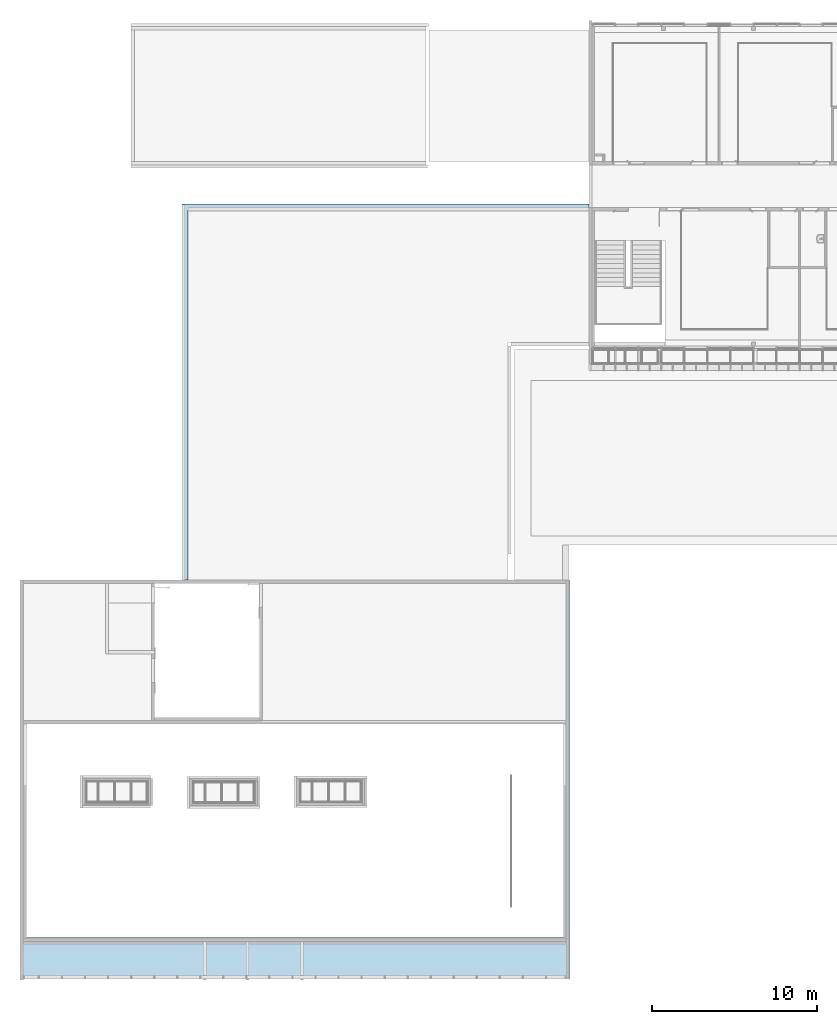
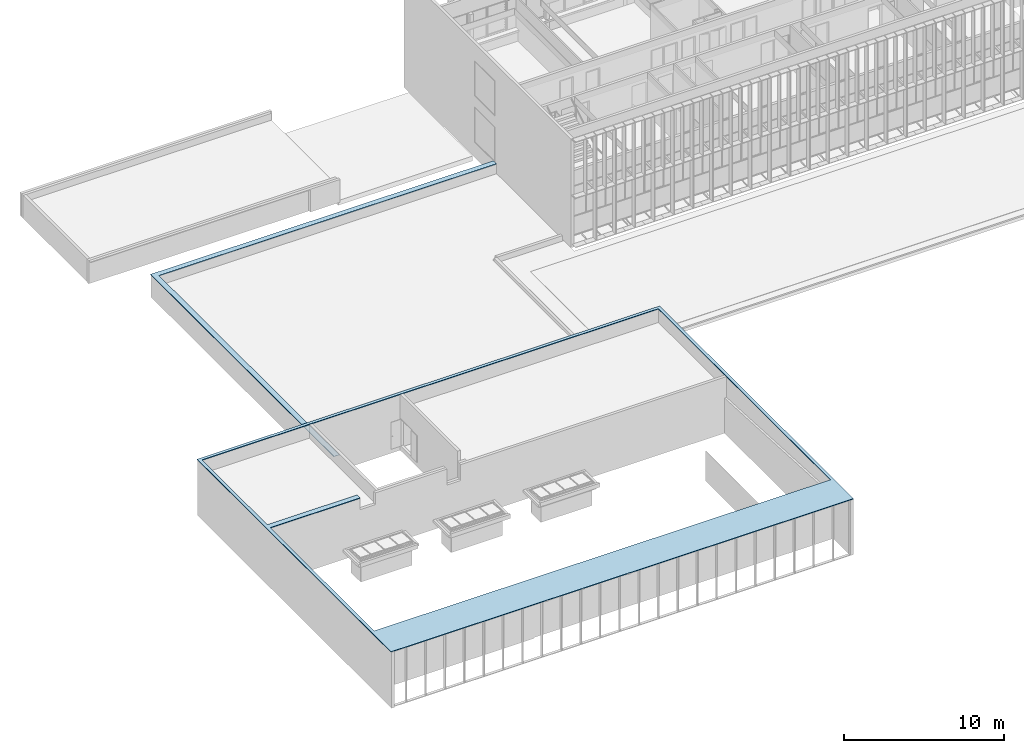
# One storey, part 101 of 106: 1 roof.
"""IFC2X3 building model written with IfcOpenShell, lengths in centimetres."""

import ifcopenshell
import ifcopenshell.guid

model = None  # the IFC model being written
_history = None  # IfcOwnerHistory: only IFC2X3 demands one
_inside = {}  # id of a spatial element -> (the spatial element, [elements in it])
_under = {}  # id of a project, library or spatial element -> (it, [spatial elements below it])
_declared = {}  # id of a project -> (the project, [libraries it declares])
_typed = {}  # id of a type object -> (the type object, [elements of that type])
_made_of = {}  # id of a material, layer set ... -> (it, [elements and type objects made of it])


def new_model(schema):
    """Start an empty IFC model of exactly this schema.

    Asked for "IFC4X3", IfcOpenShell would pick the latest addendum, in which some entities
    have other attributes; the version numbers below select the first issue.
    IFC2X3 requires an IfcOwnerHistory on every rooted entity: one is made here for all.
    """
    global model, _history
    if schema == "IFC4X3":
        model = ifcopenshell.file(schema_version=(4, 3, 0, 0))
    else:
        model = ifcopenshell.file(schema=schema)
    _inside.clear()
    _under.clear()
    _declared.clear()
    _typed.clear()
    _made_of.clear()
    _history = None
    if model.schema == "IFC2X3":
        org = make("IfcOrganization", Name="unknown")
        user = make(
            "IfcPersonAndOrganization",
            ThePerson=make("IfcPerson", FamilyName="unknown"),
            TheOrganization=org,
        )
        app = make(
            "IfcApplication",
            ApplicationDeveloper=org,
            Version="unknown",
            ApplicationFullName="unknown",
            ApplicationIdentifier="unknown",
        )
        _history = make(
            "IfcOwnerHistory",
            OwningUser=user,
            OwningApplication=app,
            ChangeAction="ADDED",
            CreationDate=0,
        )
    return model


def make(cls, **values):
    """One entity of the class cls with the attributes given. An attribute that is None is left unset."""
    return model.create_entity(
        cls, **{name: value for name, value in values.items() if value is not None}
    )


def entity(cls, *values):
    """Any entity or typed value of the class cls, its attributes in the order of the schema. None: left unset."""
    e = model.create_entity(cls)
    for i, value in enumerate(values):
        if value is not None:
            e[i] = value
    return e


def rooted(cls, **values):
    """An entity with a GlobalId (a new one), such as an element, a storey or a relation."""
    return make(cls, GlobalId=ifcopenshell.guid.new(), OwnerHistory=_history, **values)


def si_unit(unit_type, name, prefix=None):
    """IfcSIUnit, for example si_unit("LENGTHUNIT", "METRE", prefix="MILLI")."""
    return make("IfcSIUnit", UnitType=unit_type, Prefix=prefix, Name=name)


def converted_unit(unit_type, name, factor, base, dimensions=None, offset=None):
    """IfcConversionBasedUnit, such as the inch: factor (a typed value) times the base unit."""
    return make(
        "IfcConversionBasedUnit"
        if offset is None
        else "IfcConversionBasedUnitWithOffset",
        ConversionOffset=offset,
        Dimensions=None
        if dimensions is None
        else entity("IfcDimensionalExponents", *dimensions),
        UnitType=unit_type,
        Name=name,
        ConversionFactor=make(
            "IfcMeasureWithUnit", ValueComponent=factor, UnitComponent=base
        ),
    )


def derived_unit(unit_type, elements):
    """IfcDerivedUnit: a product of units, each with its exponent."""
    return make(
        "IfcDerivedUnit",
        Elements=[
            make("IfcDerivedUnitElement", Unit=unit, Exponent=power)
            for unit, power in elements
        ],
        UnitType=unit_type,
    )


def assignment(units):
    """IfcUnitAssignment: the units of a project."""
    return None if units is None else make("IfcUnitAssignment", Units=units)


def point(xyz):
    """IfcCartesianPoint."""
    return None if xyz is None else make("IfcCartesianPoint", Coordinates=xyz)


def direction(xyz):
    """IfcDirection."""
    return None if xyz is None else make("IfcDirection", DirectionRatios=xyz)


def frame(location, z_axis=None, x_axis=None):
    """IfcAxis2Placement3D, a coordinate frame: its origin and axes. An axis left out is left unset."""
    return make(
        "IfcAxis2Placement3D",
        Location=point(location),
        Axis=direction(z_axis),
        RefDirection=direction(x_axis),
    )


def origin():
    """The frame at (0, 0, 0) with its axes left unset."""
    return frame((0.0, 0.0, 0.0))


def place(relative_to, where):
    """IfcLocalPlacement: puts the frame where relative to a parent placement (None: the world)."""
    return make(
        "IfcLocalPlacement", PlacementRelTo=relative_to, RelativePlacement=where
    )


def context(
    kind, dimensions, precision=None, world=None, true_north=None, identifier=None
):
    """IfcGeometricRepresentationContext, for example the 3D "Model" context."""
    return make(
        "IfcGeometricRepresentationContext",
        ContextIdentifier=identifier,
        ContextType=kind,
        CoordinateSpaceDimension=dimensions,
        Precision=precision,
        WorldCoordinateSystem=world,
        TrueNorth=true_north,
    )


def subcontext(parent, identifier, kind, view, scale=None):
    """IfcGeometricRepresentationSubContext, for example "Body" below "Model"."""
    return make(
        "IfcGeometricRepresentationSubContext",
        ContextIdentifier=identifier,
        ContextType=kind,
        ParentContext=parent,
        TargetScale=scale,
        TargetView=view,
    )


def project(units=None, contexts=None):
    """IfcProject with its units and contexts."""
    return rooted(
        "IfcProject",
        Name="project",
        RepresentationContexts=contexts,
        UnitsInContext=assignment(units),
    )


def spatial(cls, under=None, at=None, **own):
    """A site, building, storey or space (cls), placed at a placement, below another one or the project."""
    s = rooted(cls, ObjectPlacement=at, **own)
    if under is not None:
        _under.setdefault(under.id(), (under, []))[1].append(s)
    return s


def faces_of(points, faces, orient=None, outer=None):
    """IfcFace entities. A face is a list of loops; a loop is a list of indices into points, from 0.

    orient and outer hold one flag for each loop. By default every Orientation is true, the
    first loop of a face is its IfcFaceOuterBound and the others are IfcFaceBound.
    """
    made = []
    for i, loops in enumerate(faces):
        bounds = []
        for j, loop in enumerate(loops):
            is_outer = j == 0 if outer is None else outer[i][j]
            bounds.append(
                make(
                    "IfcFaceOuterBound" if is_outer else "IfcFaceBound",
                    Bound=make("IfcPolyLoop", Polygon=[points[k] for k in loop]),
                    Orientation=True if orient is None else orient[i][j],
                )
            )
        made.append(make("IfcFace", Bounds=bounds))
    return made


def faceted_brep(points, faces, orient=None, outer=None, voids=None):
    """IfcFacetedBrep: a solid bounded by flat faces; with voids (closed shells), ...WithVoids."""
    shared = [point(p) for p in points]
    hull = make("IfcClosedShell", CfsFaces=faces_of(shared, faces, orient, outer))
    if voids is None:
        return make("IfcFacetedBrep", Outer=hull)
    return make(
        "IfcFacetedBrepWithVoids",
        Outer=hull,
        Voids=[
            make(cls, CfsFaces=faces_of(shared, fs, o, b)) for cls, fs, o, b in voids
        ],
    )


def shape(context_of_items, identifier, shape_type, items):
    """IfcShapeRepresentation: the items that make up one representation, for example the "Body"."""
    return make(
        "IfcShapeRepresentation",
        ContextOfItems=context_of_items,
        RepresentationIdentifier=identifier,
        RepresentationType=shape_type,
        Items=items,
    )


def material(Name=None, Category=None):
    """IfcMaterial."""
    return make("IfcMaterial", Name=Name, Category=Category)


def made_of(thing, what):
    """Note that an element or type object is made of a material, layer set ...; save() writes the relation."""
    if what is not None:
        _made_of.setdefault(what.id(), (what, []))[1].append(thing)
    return thing


def element(
    cls,
    number,
    at=None,
    inside=None,
    cuts=None,
    type_object=None,
    material=None,
    context=None,
    identifier="Body",
    shape_type=None,
    held_by="IfcProductDefinitionShape",
    body=None,
    shapes=None,
    **own,
):
    """One element of the class cls, such as IfcWall. Its Tag is "e" and its number.

    at: its placement. inside: the storey or other place that contains it. cuts: it is an
    opening in that element (IfcRelVoidsElement). A single representation is given by context,
    identifier, shape_type and body (its items); several are given by shapes. held_by: the class
    of the entity that holds the representations. save() writes the other relations.
    """
    e = rooted(cls, Tag="e%d" % number, ObjectPlacement=at, **own)
    if body is not None:
        shapes = [shape(context, identifier, shape_type, body)]
    if shapes is not None:
        e.Representation = make(held_by, Representations=shapes)
    if inside is not None:
        _inside.setdefault(inside.id(), (inside, []))[1].append(e)
    if cuts is not None:
        rooted(
            "IfcRelVoidsElement", RelatingBuildingElement=cuts, RelatedOpeningElement=e
        )
    if type_object is not None:
        _typed.setdefault(type_object.id(), (type_object, []))[1].append(e)
    return made_of(e, material)


def aggregate(whole, parts):
    """IfcRelAggregates: a whole, such as a stair, and the parts it consists of."""
    return rooted("IfcRelAggregates", RelatingObject=whole, RelatedObjects=parts)


def save(model, path):
    """Write the relations noted so far, then the file.

    IfcRelAggregates (storeys below a building ...), IfcRelContainedInSpatialStructure (elements
    in a storey), IfcRelDefinesByType, IfcRelAssociatesMaterial and IfcRelDeclares: one each for
    every whole, place, type object, material and project.
    """
    for whole, parts in _under.values():
        aggregate(whole, parts)
    for where, things in _inside.values():
        rooted(
            "IfcRelContainedInSpatialStructure",
            RelatedElements=things,
            RelatingStructure=where,
        )
    for kind, things in _typed.values():
        rooted("IfcRelDefinesByType", RelatedObjects=things, RelatingType=kind)
    for what, things in _made_of.values():
        rooted("IfcRelAssociatesMaterial", RelatedObjects=things, RelatingMaterial=what)
    for by, libraries in _declared.values():
        rooted("IfcRelDeclares", RelatingContext=by, RelatedDefinitions=libraries)
    model.write(path)


model = new_model("IFC2X3")

# Units and contexts
model_context = context("Model", 3, precision=0.001, world=origin(), true_north=direction((6.12303176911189e-17, 1.0)))
body_context = subcontext(model_context, "Body", "Model", "MODEL_VIEW")
ifc_project = project(units=[si_unit("LENGTHUNIT", "METRE", prefix="CENTI"), si_unit("AREAUNIT", "SQUARE_METRE"), si_unit("VOLUMEUNIT", "CUBIC_METRE"), converted_unit("PLANEANGLEUNIT", "DEGREE", entity("IfcRatioMeasure", 0.0174532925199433), si_unit("PLANEANGLEUNIT", "RADIAN"), dimensions=[0, 0, 0, 0, 0, 0, 0]), si_unit("MASSUNIT", "GRAM", prefix="KILO"), derived_unit("MASSDENSITYUNIT", [(si_unit("MASSUNIT", "GRAM", prefix="KILO"), 1), (si_unit("LENGTHUNIT", "METRE"), -3)]), si_unit("TIMEUNIT", "SECOND"), si_unit("FREQUENCYUNIT", "HERTZ"), si_unit("THERMODYNAMICTEMPERATUREUNIT", "DEGREE_CELSIUS"), derived_unit("THERMALTRANSMITTANCEUNIT", [(si_unit("MASSUNIT", "GRAM", prefix="KILO"), 1), (si_unit("THERMODYNAMICTEMPERATUREUNIT", "KELVIN"), -1), (si_unit("TIMEUNIT", "SECOND"), -3)]), derived_unit("VOLUMETRICFLOWRATEUNIT", [(si_unit("LENGTHUNIT", "METRE"), 3), (si_unit("TIMEUNIT", "SECOND"), -1)]), si_unit("ELECTRICCURRENTUNIT", "AMPERE"), si_unit("ELECTRICVOLTAGEUNIT", "VOLT"), si_unit("POWERUNIT", "WATT"), si_unit("FORCEUNIT", "NEWTON", prefix="KILO"), si_unit("ILLUMINANCEUNIT", "LUX"), si_unit("LUMINOUSFLUXUNIT", "LUMEN"), si_unit("LUMINOUSINTENSITYUNIT", "CANDELA"), derived_unit("USERDEFINED", [(si_unit("MASSUNIT", "GRAM", prefix="KILO"), -1), (si_unit("LENGTHUNIT", "METRE"), -2), (si_unit("TIMEUNIT", "SECOND"), 3), (si_unit("LUMINOUSFLUXUNIT", "LUMEN"), 1)]), derived_unit("LINEARVELOCITYUNIT", [(si_unit("LENGTHUNIT", "METRE"), 1), (si_unit("TIMEUNIT", "SECOND"), -1)]), si_unit("PRESSUREUNIT", "PASCAL"), derived_unit("USERDEFINED", [(si_unit("LENGTHUNIT", "METRE"), -2), (si_unit("MASSUNIT", "GRAM", prefix="KILO"), 1), (si_unit("TIMEUNIT", "SECOND"), -2)])], contexts=[model_context])

# Site, building, storey
site_placement = place(None, frame((-2781.94577612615, 7442.24238424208, 0.0)))
site = spatial("IfcSite", under=ifc_project, at=site_placement, Name="Default", CompositionType="ELEMENT")
building_placement = place(site_placement, origin())
building = spatial("IfcBuilding", under=site, at=building_placement, CompositionType="ELEMENT")
storey_placement = place(building_placement, frame((0.0, 0.0, 422.0)))
storey = spatial("IfcBuildingStorey", under=building, at=storey_placement, Name="Toiture - Cuisine", CompositionType="ELEMENT", Elevation=421.999999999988)

# Roof
ifc_material = material(Name="Aluminium")
roof_placement = place(storey_placement, frame((-11885.3505746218, -5775.00173441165, -5.0)))
element("IfcRoof", 1, at=roof_placement, inside=storey, material=ifc_material, Name="Couvertine Self:Couvertine Self", ObjectType="Couvertine Self:Couvertine Self", ShapeType="NOTDEFINED", context=body_context, shape_type="Brep", body=[
    faceted_brep([(1.0, 250.499999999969, 319.0), (1.0, 250.0, 319.0), (1.0, 250.0, 323.5), (1.0, 250.499999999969, 323.5), (3336.36319372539, 250.0, 323.5), (3336.36319372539, 250.0, 319.0), (3336.36319372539, 250.499999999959, 319.0), (3336.36319372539, 250.499999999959, 323.500000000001), (3336.8631937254, 2422.4799278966, 323.500000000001), (3336.86319372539, 1.01596932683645, 323.500000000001), (3336.36319372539, 1.01596932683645, 323.500000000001), (3336.36319372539, 0.499999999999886, 323.500000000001), (23.0, 0.500000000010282, 323.500000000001), (23.0, 250.0, 323.5), (3315.36319372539, 250.0, 323.5), (3315.36319372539, 1.01596932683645, 323.500000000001), (3315.86319372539, 1.01596932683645, 323.500000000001), (3315.86319372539, 250.0, 323.5), (3315.86319372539, 250.499999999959, 323.5), (3315.86319372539, 1548.50146098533, 323.499999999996), (3316.36319372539, 1548.50146098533, 323.499999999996), (3316.36319372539, 1549.00146098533, 323.499999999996), (3316.36319372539, 1586.00146098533, 323.499999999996), (3316.36319372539, 1586.50146098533, 323.499999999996), (3315.86319372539, 1586.50146098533, 323.499999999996), (3315.86319372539, 2401.4799278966, 323.499999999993), (3316.36319372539, 2401.4799278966, 323.499999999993), (3316.36319372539, 2401.9799278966, 323.499999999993), (3315.86319372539, 2401.9799278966, 323.499999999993), (3315.86319372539, 2422.4799278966, 323.5), (3315.36319372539, 2422.4799278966, 323.5), (3315.36319372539, 2401.9799278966, 323.5), (1484.38583651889, 2401.97992789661, 323.5), (1483.88583651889, 2401.97992789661, 323.5), (1446.88583651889, 2401.97992789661, 323.5), (1446.38583651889, 2401.97992789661, 323.5), (819.467766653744, 2401.97992789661, 323.499999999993), (819.467766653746, 2402.47992789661, 323.499999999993), (818.967766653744, 2402.47992789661, 323.499999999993), (781.967766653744, 2402.47992789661, 323.499999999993), (781.467766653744, 2402.47992789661, 323.499999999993), (781.467766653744, 2401.97992789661, 323.5), (23.0, 2401.97992789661, 323.5), (23.0, 2422.97992789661, 323.499999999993), (3316.36319372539, 2422.9799278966, 323.5), (3316.36319372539, 2422.4799278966, 323.500000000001), (1.0, 0.500000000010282, 319.0), (1.0, 0.500000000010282, 323.5), (22.5000000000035, 0.500000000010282, 323.5), (22.5000000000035, 0.500000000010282, 319.0), (22.5000000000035, 250.499999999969, 319.0), (22.5000000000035, 250.499999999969, 323.5), (22.5000000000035, 250.0, 319.0), (22.5000000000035, 250.0, 323.5), (0.500000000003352, 2423.50000000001, 323.5), (0.500000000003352, 2423.50000000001, 319.0), (0.0, 2423.50000000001, 319.0), (0.0, 2423.50000000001, 324.0), (23.0, 2423.50000000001, 324.0), (23.0, 2423.50000000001, 319.0), (22.500000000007, 2423.50000000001, 319.0), (22.500000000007, 2423.50000000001, 323.5), (3336.36319372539, 0.0, 319.0), (3336.36319372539, 0.0, 324.0), (0.0, 0.0, 324.0), (0.0, 0.0, 319.0), (0.499999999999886, 0.0, 319.0), (0.499999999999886, 0.0, 323.5), (1.0, 0.0, 323.5), (1.0, 0.0, 319.0), (3336.36319372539, 1.01596932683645, 324.0), (3337.36319372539, 1.01596932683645, 324.0), (3337.3631937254, 2422.4799278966, 324.0), (3316.36319372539, 2422.4799278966, 324.0), (3316.36319372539, 2423.4799278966, 324.0), (23.0, 2423.47992789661, 324.0), (671.467766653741, 1548.50146098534, 324.0), (671.467766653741, 1586.50146098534, 324.0), (23.0, 1586.50146098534, 324.0), (23.0, 2401.47992789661, 324.0), (781.467766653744, 2401.47992789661, 324.0), (781.467766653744, 2402.47992789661, 324.0), (819.467766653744, 2402.47992789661, 324.0), (819.467766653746, 2401.47992789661, 324.0), (1446.38583651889, 2401.47992789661, 324.0), (1484.38583651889, 2401.47992789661, 324.0), (3315.36319372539, 2401.4799278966, 324.0), (3315.36319372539, 1586.50146098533, 324.0), (3316.36319372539, 1586.50146098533, 324.0), (3316.36319372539, 1548.50146098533, 324.0), (3315.36319372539, 1548.50146098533, 324.0), (3315.36319372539, 250.499999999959, 324.0), (23.0, 250.499999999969, 324.0), (23.0, 1548.50146098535, 324.0), (23.0, 2423.47992789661, 319.0), (22.5000000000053, 1586.50146098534, 319.0), (22.5000000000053, 1586.50146098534, 323.5), (1.0, 1586.50146098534, 323.5), (1.0, 1586.00146098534, 323.5), (22.5000000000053, 1586.00146098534, 323.5), (22.5000000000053, 1549.00146098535, 323.5), (1.0, 1549.00146098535, 323.5), (1.0, 1548.50146098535, 323.5), (22.5000000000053, 1548.50146098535, 323.5), (3315.36319372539, 1.01596932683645, 319.0), (3315.86319372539, 1.01596932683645, 319.0), (3315.86319372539, 2422.4799278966, 319.0), (3315.36319372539, 2422.4799278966, 319.0), (3336.86319372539, 1.01596932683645, 319.0), (3336.8631937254, 2422.4799278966, 319.0), (3337.36319372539, 1.01596932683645, 319.0), (3337.3631937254, 2422.4799278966, 319.0), (3315.36319372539, 250.0, 319.0), (3315.86319372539, 250.0, 319.0), (1.0, 1586.50146098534, 319.0), (1.0, 1586.00146098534, 319.0), (671.467766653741, 1586.00146098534, 323.5), (671.467766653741, 1586.00146098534, 319.0), (671.467766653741, 1586.50146098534, 319.0), (671.467766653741, 1548.50146098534, 319.0), (671.467766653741, 1549.00146098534, 319.0), (671.467766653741, 1549.00146098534, 323.5), (23.0, 1549.00146098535, 323.5), (23.0, 1586.00146098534, 323.5), (1.0, 1549.00146098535, 319.0), (22.500000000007, 1549.00146098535, 319.0), (1.0, 1548.50146098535, 319.0), (22.5000000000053, 1548.50146098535, 319.0), (22.5000000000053, 1586.00146098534, 319.0), (3316.36319372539, 2401.4799278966, 319.0), (3316.36319372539, 2401.9799278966, 319.0), (3316.36319372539, 2423.4799278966, 319.0), (3316.36319372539, 2422.9799278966, 319.0), (23.0, 2422.97992789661, 319.0), (23.0, 2401.97992789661, 319.0), (781.467766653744, 2401.97992789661, 319.0), (23.0, 2401.47992789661, 319.0), (781.467766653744, 2401.47992789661, 319.0), (3336.36319372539, 0.499999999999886, 319.0), (23.0, 0.500000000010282, 319.0), (3315.36319372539, 250.499999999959, 319.0), (23.0, 250.499999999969, 319.0), (3315.86319372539, 250.499999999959, 319.0), (23.0, 250.0, 319.0), (23.0, 1586.50146098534, 319.0), (23.0, 1549.00146098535, 319.0), (23.0, 1586.00146098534, 319.0), (23.0, 1548.50146098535, 319.0), (3315.36319372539, 1548.50146098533, 319.0), (3315.36319372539, 2401.9799278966, 319.0), (3315.86319372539, 1548.50146098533, 319.0), (3315.86319372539, 2401.9799278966, 319.0), (3315.86319372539, 2401.4799278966, 319.0), (819.467766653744, 2401.97992789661, 319.0), (819.467766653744, 2401.47992789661, 319.0), (3315.86319372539, 1586.50146098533, 319.0), (3315.36319372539, 1586.50146098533, 319.0), (3315.36319372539, 2401.4799278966, 319.0), (1484.38583651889, 2401.47992789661, 319.0), (1483.88583651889, 2401.47992789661, 319.0), (1446.88583651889, 2401.47992789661, 319.0), (1446.38583651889, 2401.47992789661, 319.0), (1446.38583651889, 2401.97992789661, 319.0), (1446.88583651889, 2401.97992789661, 319.0), (1483.88583651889, 2401.97992789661, 319.0), (1484.38583651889, 2401.97992789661, 319.0)], [[[0, 1, 2, 3]], [[4, 5, 6, 7]], [[8, 9, 10, 11, 12, 13, 14, 15, 16, 17, 4, 7, 18, 19, 20, 21, 22, 23, 24, 25, 26, 27, 28, 29, 30, 31, 32, 33, 34, 35, 36, 37, 38, 39, 40, 41, 42, 43, 44, 45]], [[46, 47, 48, 49]], [[50, 0, 3, 51]], [[2, 1, 52, 53]], [[54, 55, 56, 57, 58, 59, 60, 61]], [[62, 63, 64, 65, 66, 67, 68, 69]], [[55, 54, 67, 66]], [[56, 55, 66, 65]], [[57, 56, 65, 64]], [[58, 57, 64, 63, 70, 71, 72, 73, 74, 75], [76, 77, 78, 79, 80, 81, 82, 83, 84, 85, 86, 87, 88, 89, 90, 91, 92, 93]], [[59, 58, 75, 94]], [[61, 60, 95, 96]], [[54, 61, 96, 97, 98, 99, 100, 101, 102, 103, 51, 3, 2, 53, 48, 47, 68, 67]], [[104, 105, 16, 15]], [[29, 106, 107, 30]], [[108, 9, 8, 109]], [[110, 108, 109, 111]], [[71, 110, 111, 72]], [[112, 104, 15, 14]], [[16, 105, 113, 17]], [[114, 115, 98, 97]], [[116, 117, 118, 77, 76, 119, 120, 121]], [[116, 121, 122, 123]], [[124, 101, 100, 125]], [[126, 127, 103, 102]], [[95, 114, 97, 96]], [[98, 115, 128, 99]], [[129, 130, 27, 26]], [[74, 131, 94, 75]], [[132, 44, 43, 133]], [[134, 42, 41, 135]], [[79, 136, 137, 80]], [[47, 46, 69, 68]], [[63, 62, 138, 11, 10, 70]], [[11, 138, 139, 12]], [[92, 91, 140, 141]], [[6, 142, 18, 7]], [[13, 143, 112, 14]], [[5, 4, 17, 113]], [[134, 133, 43, 42]], [[78, 144, 136, 79]], [[145, 146, 123, 122]], [[92, 141, 147, 93]], [[139, 143, 13, 12]], [[128, 125, 100, 99]], [[50, 51, 103, 127]], [[52, 49, 48, 53]], [[9, 108, 110, 71, 70, 10]], [[72, 111, 109, 8, 45, 73]], [[140, 91, 90, 148]], [[30, 107, 149, 31]], [[18, 142, 150, 19]], [[106, 29, 28, 151]], [[101, 124, 126, 102]], [[121, 120, 145, 122]], [[119, 76, 93, 147]], [[77, 118, 144, 78]], [[117, 116, 123, 146]], [[44, 132, 131, 74, 73, 45]], [[27, 130, 151, 28]], [[152, 129, 26, 25]], [[37, 82, 81, 40, 39, 38]], [[82, 37, 36, 153, 154, 83]], [[40, 81, 80, 137, 135, 41]], [[107, 106, 151, 130, 129, 152, 155, 156, 157, 158, 159, 160, 161, 154, 153, 162, 163, 164, 165, 149]], [[31, 149, 165, 164, 163, 162, 153, 36, 35, 34, 33, 32]], [[157, 86, 85, 84, 83, 154, 161, 160, 159, 158]], [[20, 89, 88, 23, 22, 21]], [[89, 20, 19, 150, 148, 90]], [[23, 88, 87, 156, 155, 24]], [[86, 157, 156, 87]], [[152, 25, 24, 155]], [[69, 46, 49, 52, 1, 0, 50, 127, 126, 124, 125, 128, 115, 114, 95, 60, 59, 94, 131, 132, 133, 134, 135, 137, 136, 144, 118, 117, 146, 145, 120, 119, 147, 141, 140, 148, 150, 142, 6, 5, 113, 105, 104, 112, 143, 139, 138, 62]]]),
    faceted_brep([(781.967766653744, 2401.97992789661, 319.0), (818.967766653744, 2401.97992789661, 319.0), (818.967766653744, 2401.47992789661, 319.0), (781.967766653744, 2401.47992789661, 319.0), (818.967766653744, 2401.97992789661, 323.5), (818.967766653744, 2401.47992789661, 323.499999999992), (781.967766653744, 2401.47992789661, 323.499999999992), (781.967766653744, 2401.97992789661, 323.5)], [[[0, 1, 2, 3]], [[4, 5, 2, 1]], [[6, 7, 0, 3]], [[5, 4, 7, 6]], [[1, 0, 7, 4]], [[3, 2, 5, 6]]]),
    faceted_brep([(3315.86319372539, 1549.00146098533, 323.499999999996), (3315.36319372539, 1549.00146098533, 323.499999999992), (3315.36319372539, 1549.00146098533, 319.0), (3315.86319372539, 1549.00146098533, 319.0), (3315.36319372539, 1586.00146098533, 323.499999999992), (3315.86319372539, 1586.00146098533, 323.500000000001), (3315.86319372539, 1586.00146098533, 319.0), (3315.36319372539, 1586.00146098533, 319.0)], [[[0, 1, 2, 3]], [[4, 5, 6, 7]], [[1, 0, 5, 4]], [[7, 2, 1, 4]], [[3, 6, 5, 0]], [[6, 3, 2, 7]]]),
    faceted_brep([(983.23752697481, 2412.47992789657, 5.49999999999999), (1020.23752697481, 2412.47992789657, 5.5000000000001), (1020.23752697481, 2412.47992789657, 0.0), (1020.73752697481, 2412.47992789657, 0.0), (1020.73752697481, 2412.47992789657, 6.0), (982.73752697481, 2412.47992789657, 6.0), (982.73752697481, 2412.47992789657, 0.0), (983.23752697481, 2412.47992789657, 0.0), (983.237526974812, 4705.50173451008, 5.49999999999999), (3455.85069695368, 4705.50173451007, 5.50000000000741), (3455.85069695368, 4668.50173451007, 5.5000000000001), (1020.23752697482, 4668.50173451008, 5.5000000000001), (1020.23752697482, 4668.50173451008, 0.0), (3455.85069695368, 4668.50173451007, 0.0), (3455.85069695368, 4668.00173451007, 0.0), (1020.73752697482, 4668.00173451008, 0.0), (1020.73752697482, 4668.00173451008, 6.0), (3455.85069695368, 4668.00173451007, 6.0), (3455.85069695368, 4706.00173451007, 6.0), (982.737526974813, 4706.00173451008, 6.0), (982.737526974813, 4706.00173451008, 0.0), (3455.85069695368, 4706.00173451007, 0.0), (3455.85069695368, 4705.50173451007, 0.0), (983.237526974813, 4705.50173451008, 0.0)], [[[0, 1, 2, 3, 4, 5, 6, 7]], [[1, 0, 8, 9, 10, 11]], [[2, 1, 11, 12]], [[3, 2, 12, 13, 14, 15]], [[4, 3, 15, 16]], [[5, 4, 16, 17, 18, 19]], [[6, 5, 19, 20]], [[7, 6, 20, 21, 22, 23]], [[0, 7, 23, 8]], [[9, 22, 21, 18, 17, 14, 13, 10]], [[12, 11, 10, 13]], [[16, 15, 14, 17]], [[20, 19, 18, 21]], [[8, 23, 22, 9]]]),
])

save(model, "model.ifc")
